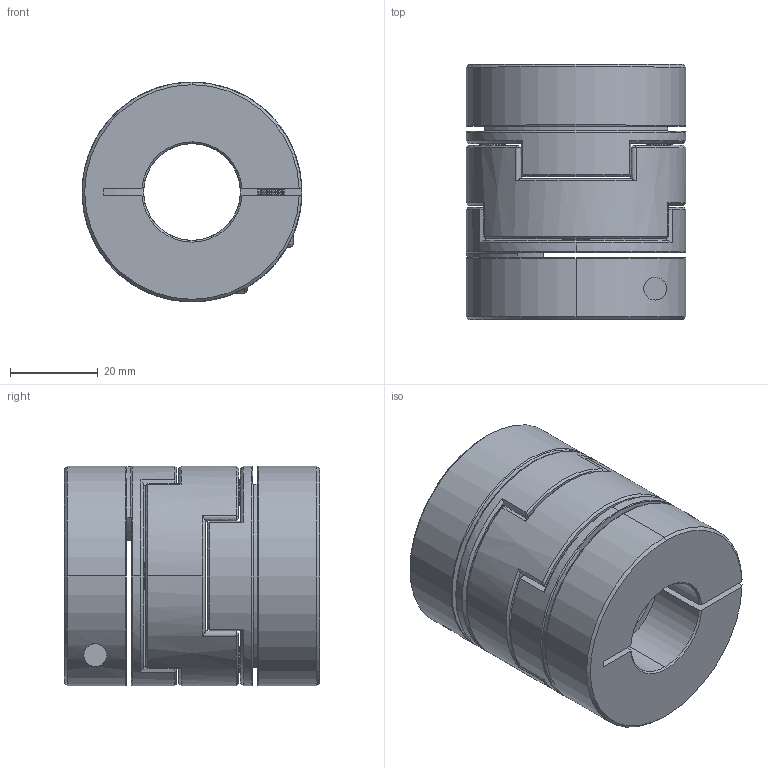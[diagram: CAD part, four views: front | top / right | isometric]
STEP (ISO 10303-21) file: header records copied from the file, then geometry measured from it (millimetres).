
FILE_DESCRIPTION (( 'STEP AP203' ), '1' );
FILE_NAME ('LZ-B-D50L58-22-24.STEP', '2021-10-29T08:16:48', ( '' ), ( '' ), 'SwSTEP 2.0', 'SolidWorks 2018', '' );
FILE_SCHEMA (( 'CONFIG_CONTROL_DESIGN' ));
Length unit declared in the file: millimetre
Products named in the file (1): LZ-B-D50L58-22-24
Bounding box: 50 x 58 x 50 mm (x, y, z)
Volume: 82826.3 mm3; surface area: 29340.3 mm2
Topology: 1 solids, 27 shells, 561 faces, 1370 edges, 814 vertices
Faces by surface type: cone 252, cylinder 160, plane 91, bspline 54, torus 4
Entity records: 17482 total; most frequent: CARTESIAN_POINT 4365, DIRECTION 2786, ORIENTED_EDGE 2732, EDGE_CURVE 1366, AXIS2_PLACEMENT_3D 1124, VERTEX_POINT 814, CIRCLE 616, EDGE_LOOP 594
